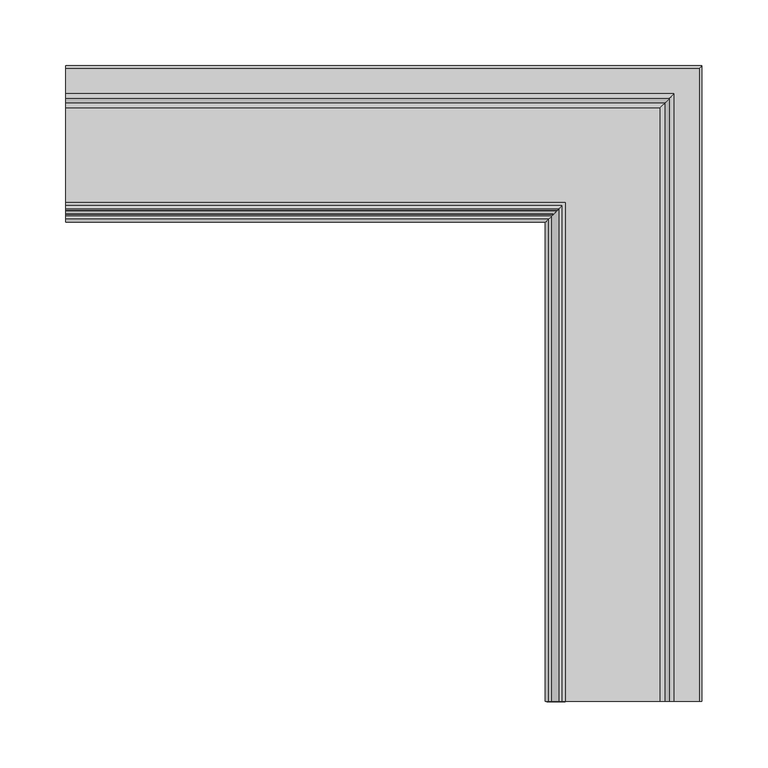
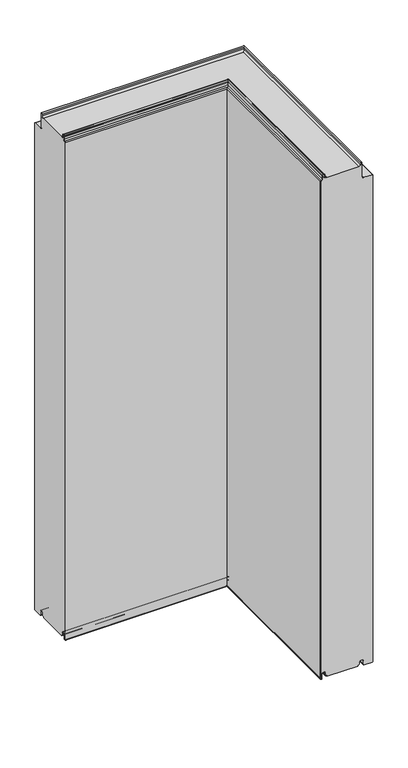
"""IFC4 building model written with IfcOpenShell, lengths in millimetres: plate geometry, Угловой модуль Fronttop : Угловой модуль Fronttop 120/1190."""

from ifc_helpers import new_model, si_unit, frame, origin, place, context, project, spatial, polyline, circle_curve, ellipse_curve, source, transform, mapped, element, save
from ifc_brep_helpers import plane_surface, cylinder_surface, revolved_surface, advanced_brep


def plate_f2ca9579(model_context):
    return source(origin(), model_context, "Body", "AdvancedBrep", [
        advanced_brep(
        [(-234.5, 15.0, 3.0), (-234.5, 13.0, 3.0), (-234.5, 12.0, 4.0), (-234.5, 12.0, 8.0), (-234.5, 3.0, 8.0), (-234.5, 3.0, -0.5), (-234.5, 1.0, -0.5), (-234.5, 1.0, 1185.0278643), (-234.5, 2.1111111, 1186.0216723), (-234.5, 6.0, 1189.5), (-234.5, 6.0, 1198.0), (-234.5, 9.0, 1198.0), (-234.5, 9.0, 1194.0), (-234.5, 13.0, 1190.0), (-234.5, 87.0, 1190.0), (-234.5, 91.0, 1194.0), (-234.5, 91.0, 1198.0), (-234.5, 94.0, 1198.0), (-234.5, 94.0, 1165.0), (-234.5, 98.0, 1161.0), (-234.5, 117.0, 1161.0), (-234.5, 119.0, 1159.0), (-234.5, 119.0, 0.0), (-234.5, 117.0, -2.0), (-234.5, 99.0, -2.0), (-234.5, 97.0, 0.0), (-234.5, 97.0, 8.0), (-234.5, 88.0, 8.0), (-234.5, 88.0, 4.0), (-234.5, 87.0, 3.0), (-234.5, 85.0, 3.0), (-234.5, 85.0, 0.0), (-234.5, 15.0, 0.0), (145.0, 15.0, 0.0), (145.0, 15.0, 3.0), (215.0, 85.0, 0.0), (215.0, -364.5, 0.0), (145.0, -364.5, 0.0), (215.0, 85.0, 3.0), (217.0, 87.0, 3.0), (217.0, -364.5, 3.0), (215.0, -364.5, 3.0), (218.0, 88.0, 4.0), (218.0, 88.0, 8.0), (227.0, 97.0, 8.0), (227.0, 97.0, 0.0), (229.0, 99.0, -2.0), (247.0, 117.0, -2.0), (247.0, -364.5, -2.0), (229.0, -364.5, -2.0), (249.0, 119.0, 0.0), (249.0, 119.0, 1159.0), (247.0, 117.0, 1161.0), (228.0, 98.0, 1161.0), (228.0, -364.5, 1161.0), (247.0, -364.5, 1161.0), (224.0, 94.0, 1165.0), (224.0, 94.0, 1198.0), (221.0, 91.0, 1198.0), (221.0, 91.0, 1194.0), (217.0, 87.0, 1190.0), (143.0, 13.0, 1190.0), (143.0, -364.5, 1190.0), (217.0, -364.5, 1190.0), (139.0, 9.0, 1194.0), (139.0, 9.0, 1198.0), (136.0, 6.0, 1198.0), (136.0, 6.0, 1189.5), (132.1111111, 2.1111111, 1186.021672), (131.0, 1.0, 1185.0278643), (131.0, 1.0, -0.5), (133.0, 3.0, -0.5), (133.0, 3.0, 8.0), (142.0, 12.0, 8.0), (142.0, 12.0, 4.0), (143.0, 13.0, 3.0), (145.0, -364.5, 3.0), (143.0, -364.5, 3.0), (218.0, -364.5, 4.0), (218.0, -364.5, 8.0), (227.0, -364.5, 8.0), (227.0, -364.5, 0.0), (249.0, -364.5, 0.0), (249.0, -364.5, 1159.0), (224.0, -364.5, 1165.0), (224.0, -364.5, 1198.0), (221.0, -364.5, 1198.0), (221.0, -364.5, 1194.0), (139.0, -364.5, 1194.0), (139.0, -364.5, 1198.0), (136.0, -364.5, 1198.0), (136.0, -364.5, 1189.5), (132.1111111, -364.5, 1186.021672), (131.0, -364.5, 1185.0278643), (131.0, -364.5, -0.5), (133.0, -364.5, -0.5), (133.0, -364.5, 8.0), (142.0, -364.5, 8.0), (142.0, -364.5, 4.0)],
        [
            (0, 1),
            (1, 2, circle_curve(frame((-234.5, 13.0, 4.0), z_axis=(-1.0, 0.0, 0.0), x_axis=(0.0, -1.0, 0.0)), 1.0)),
            (2, 3),
            (3, 4, circle_curve(frame((-234.5, 7.5, 8.0), z_axis=(1.0, 0.0, 0.0), x_axis=(0.0, -1.0, 0.0)), 4.5)),
            (4, 5),
            (5, 6, circle_curve(frame((-234.5, 2.0, -0.5), z_axis=(-1.0, 0.0, 0.0), x_axis=(0.0, -1.0, 0.0)), 1.0)),
            (6, 7),
            (7, 8, circle_curve(frame((-234.5, 2.0, 1185.0278643), z_axis=(-1.0, 0.0, 0.0), x_axis=(0.0, -1.0, 0.0)), 1.0)),
            (8, 9, circle_curve(frame((-234.5, 2.5, 1189.5), z_axis=(1.0, 0.0, 0.0), x_axis=(0.0, -1.0, 0.0)), 3.5)),
            (9, 10),
            (10, 11, circle_curve(frame((-234.5, 7.5, 1198.0), z_axis=(-1.0, 0.0, 0.0), x_axis=(0.0, -1.0, 0.0)), 1.5)),
            (11, 12),
            (12, 13, circle_curve(frame((-234.5, 13.0, 1194.0), z_axis=(1.0, 0.0, 0.0), x_axis=(0.0, -1.0, 0.0)), 4.0)),
            (13, 14),
            (14, 15, circle_curve(frame((-234.5, 87.0, 1194.0), z_axis=(1.0, 0.0, 0.0), x_axis=(0.0, -1.0, 0.0)), 4.0)),
            (15, 16),
            (16, 17, circle_curve(frame((-234.5, 92.5, 1198.0), z_axis=(-1.0, 0.0, 0.0), x_axis=(0.0, -1.0, 0.0)), 1.5)),
            (17, 18),
            (18, 19, circle_curve(frame((-234.5, 98.0, 1165.0), z_axis=(1.0, 0.0, 0.0), x_axis=(0.0, -1.0, 0.0)), 4.0)),
            (19, 20),
            (20, 21, circle_curve(frame((-234.5, 117.0, 1159.0), z_axis=(-1.0, 0.0, 0.0), x_axis=(0.0, -1.0, 0.0)), 2.0)),
            (21, 22),
            (22, 23, circle_curve(frame((-234.5, 117.0, 0.0), z_axis=(-1.0, 0.0, 0.0), x_axis=(0.0, -1.0, 0.0)), 2.0)),
            (23, 24),
            (24, 25, circle_curve(frame((-234.5, 99.0, 0.0), z_axis=(-1.0, 0.0, 0.0), x_axis=(0.0, -1.0, 0.0)), 2.0)),
            (25, 26),
            (26, 27, circle_curve(frame((-234.5, 92.5, 8.0), z_axis=(1.0, 0.0, 0.0), x_axis=(0.0, -1.0, 0.0)), 4.5)),
            (27, 28),
            (28, 29, circle_curve(frame((-234.5, 87.0, 4.0), z_axis=(-1.0, 0.0, 0.0), x_axis=(0.0, -1.0, 0.0)), 1.0)),
            (29, 30),
            (30, 31),
            (31, 32),
            (32, 0),
            (32, 33),
            (33, 34),
            (34, 0),
            (31, 35),
            (35, 36),
            (36, 37),
            (37, 33),
            (30, 38),
            (38, 35),
            (29, 39),
            (39, 40),
            (40, 41),
            (41, 38),
            (28, 42),
            (42, 39, ellipse_curve(frame((217.0, 87.0, 4.0), z_axis=(-0.7071067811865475, 0.7071067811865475, 0.0), x_axis=(-0.7071067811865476, -0.7071067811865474, 0.0)), 1.4142136, 1.0)),
            (27, 43),
            (43, 42),
            (26, 44),
            (44, 43, ellipse_curve(frame((222.5, 92.5, 8.0), z_axis=(0.7071067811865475, -0.7071067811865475, 0.0), x_axis=(0.7071067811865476, 0.7071067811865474, 0.0)), 6.363961, 4.5)),
            (25, 45),
            (45, 44),
            (24, 46),
            (46, 45, ellipse_curve(frame((229.0, 99.0, 0.0), z_axis=(-0.7071067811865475, 0.7071067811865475, 0.0), x_axis=(-0.7071067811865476, -0.7071067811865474, 0.0)), 2.8284271, 2.0)),
            (23, 47),
            (47, 48),
            (48, 49),
            (49, 46),
            (22, 50),
            (50, 47, ellipse_curve(frame((247.0, 117.0, 0.0), z_axis=(-0.7071067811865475, 0.7071067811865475, 0.0), x_axis=(-0.7071067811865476, -0.7071067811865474, 0.0)), 2.8284271, 2.0)),
            (21, 51),
            (51, 50),
            (20, 52),
            (52, 51, ellipse_curve(frame((247.0, 117.0, 1159.0), z_axis=(-0.7071067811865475, 0.7071067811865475, 0.0), x_axis=(-0.7071067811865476, -0.7071067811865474, 0.0)), 2.8284271, 2.0)),
            (19, 53),
            (53, 54),
            (54, 55),
            (55, 52),
            (18, 56),
            (56, 53, ellipse_curve(frame((228.0, 98.0, 1165.0), z_axis=(0.7071067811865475, -0.7071067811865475, 0.0), x_axis=(0.7071067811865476, 0.7071067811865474, 0.0)), 5.6568542, 4.0)),
            (17, 57),
            (57, 56),
            (16, 58),
            (58, 57, ellipse_curve(frame((222.5, 92.5, 1198.0), z_axis=(-0.7071067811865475, 0.7071067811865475, 0.0), x_axis=(-0.7071067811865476, -0.7071067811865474, 0.0)), 2.1213203, 1.5)),
            (15, 59),
            (59, 58),
            (14, 60),
            (60, 59, ellipse_curve(frame((217.0, 87.0, 1194.0), z_axis=(0.7071067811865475, -0.7071067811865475, 0.0), x_axis=(0.7071067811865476, 0.7071067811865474, 0.0)), 5.6568542, 4.0)),
            (13, 61),
            (61, 62),
            (62, 63),
            (63, 60),
            (12, 64),
            (64, 61, ellipse_curve(frame((143.0, 13.0, 1194.0), z_axis=(0.7071067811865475, -0.7071067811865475, 0.0), x_axis=(0.7071067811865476, 0.7071067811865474, 0.0)), 5.6568542, 4.0)),
            (11, 65),
            (65, 64),
            (10, 66),
            (66, 65, ellipse_curve(frame((137.5, 7.5, 1198.0), z_axis=(-0.7071067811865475, 0.7071067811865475, 0.0), x_axis=(-0.7071067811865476, -0.7071067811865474, 0.0)), 2.1213204, 1.5)),
            (9, 67),
            (67, 66),
            (8, 68),
            (68, 67, ellipse_curve(frame((132.5, 2.5, 1189.5), z_axis=(0.7071067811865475, -0.7071067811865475, 0.0), x_axis=(0.7071067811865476, 0.7071067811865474, 0.0)), 4.9497475, 3.5)),
            (7, 69),
            (69, 68, ellipse_curve(frame((132.0, 2.0, 1185.0278643), z_axis=(-0.7071067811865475, 0.7071067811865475, 0.0), x_axis=(-0.7071067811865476, -0.7071067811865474, 0.0)), 1.4142136, 1.0)),
            (6, 70),
            (70, 69),
            (5, 71),
            (71, 70, ellipse_curve(frame((132.0, 2.0, -0.5), z_axis=(-0.7071067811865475, 0.7071067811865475, 0.0), x_axis=(-0.7071067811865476, -0.7071067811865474, 0.0)), 1.4142136, 1.0)),
            (4, 72),
            (72, 71),
            (3, 73),
            (73, 72, ellipse_curve(frame((137.5, 7.5, 8.0), z_axis=(0.7071067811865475, -0.7071067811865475, 0.0), x_axis=(0.7071067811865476, 0.7071067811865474, 0.0)), 6.363961, 4.5)),
            (2, 74),
            (74, 73),
            (1, 75),
            (75, 74, ellipse_curve(frame((143.0, 13.0, 4.0), z_axis=(-0.7071067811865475, 0.7071067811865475, 0.0), x_axis=(-0.7071067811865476, -0.7071067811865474, 0.0)), 1.4142136, 1.0)),
            (34, 76),
            (76, 77),
            (77, 75),
            (76, 37),
            (36, 41),
            (40, 78, circle_curve(frame((217.0, -364.5, 4.0), z_axis=(0.0, -1.0, 0.0), x_axis=(-1.0, 0.0, 0.0)), 1.0)),
            (78, 79),
            (79, 80, circle_curve(frame((222.5, -364.5, 8.0), z_axis=(0.0, 1.0, 0.0), x_axis=(-1.0, 0.0, 0.0)), 4.5)),
            (80, 81),
            (81, 49, circle_curve(frame((229.0, -364.5, 0.0), z_axis=(0.0, -1.0, 0.0), x_axis=(-1.0, 0.0, 0.0)), 2.0)),
            (48, 82, circle_curve(frame((247.0, -364.5, 0.0), z_axis=(0.0, -1.0, 0.0), x_axis=(-1.0, 0.0, 0.0)), 2.0)),
            (82, 83),
            (83, 55, circle_curve(frame((247.0, -364.5, 1159.0), z_axis=(0.0, -1.0, 0.0), x_axis=(-1.0, 0.0, 0.0)), 2.0)),
            (54, 84, circle_curve(frame((228.0, -364.5, 1165.0), z_axis=(0.0, 1.0, 0.0), x_axis=(-1.0, 0.0, 0.0)), 4.0)),
            (84, 85),
            (85, 86, circle_curve(frame((222.5, -364.5, 1198.0), z_axis=(0.0, -1.0, 0.0), x_axis=(-1.0, 0.0, 0.0)), 1.5)),
            (86, 87),
            (87, 63, circle_curve(frame((217.0, -364.5, 1194.0), z_axis=(0.0, 1.0, 0.0), x_axis=(-1.0, 0.0, 0.0)), 4.0)),
            (62, 88, circle_curve(frame((143.0, -364.5, 1194.0), z_axis=(0.0, 1.0, 0.0), x_axis=(-1.0, 0.0, 0.0)), 4.0)),
            (88, 89),
            (89, 90, circle_curve(frame((137.5, -364.5, 1198.0), z_axis=(0.0, -1.0, 0.0), x_axis=(-1.0, 0.0, 0.0)), 1.5)),
            (90, 91),
            (91, 92, circle_curve(frame((132.5, -364.5, 1189.5), z_axis=(0.0, 1.0, 0.0), x_axis=(-1.0, 0.0, 0.0)), 3.5)),
            (92, 93, circle_curve(frame((132.0, -364.5, 1185.0278643), z_axis=(0.0, -1.0, 0.0), x_axis=(-1.0, 0.0, 0.0)), 1.0)),
            (93, 94),
            (94, 95, circle_curve(frame((132.0, -364.5, -0.5), z_axis=(0.0, -1.0, 0.0), x_axis=(-1.0, 0.0, 0.0)), 1.0)),
            (95, 96),
            (96, 97, circle_curve(frame((137.5, -364.5, 8.0), z_axis=(0.0, 1.0, 0.0), x_axis=(-1.0, 0.0, 0.0)), 4.5)),
            (97, 98),
            (98, 77, circle_curve(frame((143.0, -364.5, 4.0), z_axis=(0.0, -1.0, 0.0), x_axis=(-1.0, 0.0, 0.0)), 1.0)),
            (42, 78),
            (43, 79),
            (44, 80),
            (45, 81),
            (50, 82),
            (51, 83),
            (56, 84),
            (57, 85),
            (58, 86),
            (59, 87),
            (64, 88),
            (65, 89),
            (66, 90),
            (67, 91),
            (68, 92),
            (69, 93),
            (70, 94),
            (71, 95),
            (72, 96),
            (73, 97),
            (74, 98),
        ],
        [
            plane_surface(frame((-234.5, 0.0, 0.0), z_axis=(-1.0, 0.0, 0.0), x_axis=(0.0, 0.0, 1.0))),
            plane_surface(frame((-234.5, 15.0, 0.0), z_axis=(0.0, -1.0, 0.0), x_axis=(1.0, 0.0, 0.0))),
            plane_surface(frame((-234.5, 85.0, 0.0), z_axis=(0.0, 0.0, -1.0), x_axis=(1.0, 0.0, 0.0))),
            plane_surface(frame((-234.5, 85.0, 3.0), z_axis=(0.0, 1.0, 0.0), x_axis=(1.0, 0.0, 0.0))),
            plane_surface(frame((-234.5, 87.0, 3.0), z_axis=(0.0, 0.0, -1.0), x_axis=(1.0, 0.0, 0.0))),
            cylinder_surface(frame((-234.5, 87.0, 4.0), z_axis=(-1.0, 0.0, 0.0), x_axis=(0.0, -1.0, 0.0)), 1.0),
            plane_surface(frame((-234.5, 88.0, 8.0), z_axis=(0.0, 1.0, 0.0), x_axis=(1.0, 0.0, 0.0))),
            revolved_surface(polyline([(227.0, 88.0, 8.0), (-234.5, 88.0, 8.0)]), (-234.5, 92.5, 8.0), (1.0, 0.0, 0.0)),
            plane_surface(frame((-234.5, 97.0, 0.0), z_axis=(0.0, -1.0, 0.0), x_axis=(1.0, 0.0, 0.0))),
            cylinder_surface(frame((-234.5, 99.0, 0.0), z_axis=(-1.0, 0.0, 0.0), x_axis=(0.0, -1.0, 0.0)), 2.0),
            plane_surface(frame((-234.5, 117.0, -2.0), z_axis=(0.0, 0.0, -1.0), x_axis=(1.0, 0.0, 0.0))),
            cylinder_surface(frame((-234.5, 117.0, 0.0), z_axis=(-1.0, 0.0, 0.0), x_axis=(0.0, -1.0, 0.0)), 2.0),
            plane_surface(frame((-234.5, 119.0, 1159.0), z_axis=(0.0, 1.0, 0.0), x_axis=(1.0, 0.0, 0.0))),
            cylinder_surface(frame((-234.5, 117.0, 1159.0), z_axis=(-1.0, 0.0, 0.0), x_axis=(0.0, -1.0, 0.0)), 2.0),
            plane_surface(frame((-234.5, 98.0, 1161.0), z_axis=(0.0, 0.0, 1.0), x_axis=(1.0, 0.0, 0.0))),
            revolved_surface(polyline([(231.9999999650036, 94.0, 1165.0), (-234.5, 94.0, 1165.0)]), (-234.5, 98.0, 1165.0), (1.0, 0.0, 0.0)),
            plane_surface(frame((-234.5, 94.0, 1198.0), z_axis=(0.0, 1.0, 0.0), x_axis=(1.0, 0.0, 0.0))),
            cylinder_surface(frame((-234.5, 92.5, 1198.0), z_axis=(-1.0, 0.0, 0.0), x_axis=(0.0, -1.0, 0.0)), 1.5),
            plane_surface(frame((-234.5, 91.0, 1194.0), z_axis=(0.0, -1.0, 0.0), x_axis=(1.0, 0.0, 0.0))),
            revolved_surface(polyline([(221.0, 83.0, 1194.0), (-234.5, 83.0, 1194.0)]), (-234.5, 87.0, 1194.0), (1.0, 0.0, 0.0)),
            plane_surface(frame((-234.5, 13.0, 1190.0), z_axis=(0.0, 0.0, 1.0), x_axis=(1.0, 0.0, 0.0))),
            revolved_surface(polyline([(146.9999999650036, 9.0, 1194.0), (-234.5, 9.0, 1194.0)]), (-234.5, 13.0, 1194.0), (1.0, 0.0, 0.0)),
            plane_surface(frame((-234.5, 9.0, 1198.0), z_axis=(0.0, 1.0, 0.0), x_axis=(1.0, 0.0, 0.0))),
            cylinder_surface(frame((-234.5, 7.5, 1198.0), z_axis=(-1.0, 0.0, 0.0), x_axis=(0.0, -1.0, 0.0)), 1.5),
            plane_surface(frame((-234.5, 6.0, 1189.5), z_axis=(0.0, -1.0, 0.0), x_axis=(1.0, 0.0, 0.0))),
            revolved_surface(polyline([(136.00000002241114, -1.0, 1189.5), (-234.5, -1.0, 1189.5)]), (-234.5, 2.5, 1189.5), (1.0, 0.0, 0.0)),
            cylinder_surface(frame((-234.5, 2.0, 1185.0278643), z_axis=(-1.0, 0.0, 0.0), x_axis=(0.0, -1.0, 0.0)), 1.0),
            plane_surface(frame((-234.5, 1.0, -0.5), z_axis=(0.0, -1.0, 0.0), x_axis=(1.0, 0.0, 0.0))),
            cylinder_surface(frame((-234.5, 2.0, -0.5), z_axis=(-1.0, 0.0, 0.0), x_axis=(0.0, -1.0, 0.0)), 1.0),
            plane_surface(frame((-234.5, 3.0, 8.0), z_axis=(0.0, 1.0, 0.0), x_axis=(1.0, 0.0, 0.0))),
            revolved_surface(polyline([(142.0, 3.0, 8.0), (-234.5, 3.0, 8.0)]), (-234.5, 7.5, 8.0), (1.0, 0.0, 0.0)),
            plane_surface(frame((-234.5, 12.0, 4.0), z_axis=(0.0, -1.0, 0.0), x_axis=(1.0, 0.0, 0.0))),
            cylinder_surface(frame((-234.5, 13.0, 4.0), z_axis=(-1.0, 0.0, 0.0), x_axis=(0.0, -1.0, 0.0)), 1.0),
            plane_surface(frame((-234.5, 15.0, 3.0), z_axis=(0.0, 0.0, -1.0), x_axis=(1.0, 0.0, 0.0))),
            plane_surface(frame((130.0, -364.5, 0.0), z_axis=(0.0, -1.0, 0.0), x_axis=(0.0, 0.0, 1.0))),
            plane_surface(frame((145.0, 15.0, 0.0), z_axis=(-1.0, 0.0, 0.0), x_axis=(0.0, -1.0, 0.0))),
            plane_surface(frame((215.0, 85.0, 3.0), z_axis=(1.0, 0.0, 0.0), x_axis=(0.0, -1.0, 0.0))),
            cylinder_surface(frame((217.0, 0.0, 4.0), z_axis=(0.0, 1.0, 0.0), x_axis=(-1.0, 0.0, 0.0)), 1.0),
            plane_surface(frame((218.0, 88.0, 8.0), z_axis=(1.0, 0.0, 0.0), x_axis=(0.0, -1.0, 0.0))),
            revolved_surface(polyline([(218.0, -364.5, 8.0), (218.0, 97.0, 8.0)]), (222.5, 0.0, 8.0), (0.0, -1.0, 0.0)),
            plane_surface(frame((227.0, 97.0, 0.0), z_axis=(-1.0, 0.0, 0.0), x_axis=(0.0, -1.0, 0.0))),
            cylinder_surface(frame((229.0, 0.0, 0.0), z_axis=(0.0, 1.0, 0.0), x_axis=(-1.0, 0.0, 0.0)), 2.0),
            cylinder_surface(frame((247.0, 0.0, 0.0), z_axis=(0.0, 1.0, 0.0), x_axis=(-1.0, 0.0, 0.0)), 2.0),
            plane_surface(frame((249.0, 119.0, 1159.0), z_axis=(1.0, 0.0, 0.0), x_axis=(0.0, -1.0, 0.0))),
            cylinder_surface(frame((247.0, 0.0, 1159.0), z_axis=(0.0, 1.0, 0.0), x_axis=(-1.0, 0.0, 0.0)), 2.0),
            revolved_surface(polyline([(224.0, -364.5, 1165.0), (224.0, 101.9999999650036, 1165.0)]), (228.0, 0.0, 1165.0), (0.0, -1.0, 0.0)),
            plane_surface(frame((224.0, 94.0, 1198.0), z_axis=(1.0, 0.0, 0.0), x_axis=(0.0, -1.0, 0.0))),
            cylinder_surface(frame((222.5, 0.0, 1198.0), z_axis=(0.0, 1.0, 0.0), x_axis=(-1.0, 0.0, 0.0)), 1.5),
            plane_surface(frame((221.0, 91.0, 1194.0), z_axis=(-1.0, 0.0, 0.0), x_axis=(0.0, -1.0, 0.0))),
            revolved_surface(polyline([(213.0, -364.5, 1194.0), (213.0, 91.0, 1194.0)]), (217.0, 0.0, 1194.0), (0.0, -1.0, 0.0)),
            revolved_surface(polyline([(139.0, -364.5, 1194.0), (139.0, 16.999999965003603, 1194.0)]), (143.0, 0.0, 1194.0), (0.0, -1.0, 0.0)),
            plane_surface(frame((139.0, 9.0, 1198.0), z_axis=(1.0, 0.0, 0.0), x_axis=(0.0, -1.0, 0.0))),
            cylinder_surface(frame((137.5, 0.0, 1198.0), z_axis=(0.0, 1.0, 0.0), x_axis=(-1.0, 0.0, 0.0)), 1.5),
            plane_surface(frame((136.0, 6.0, 1189.5), z_axis=(-1.0, 0.0, 0.0), x_axis=(0.0, -1.0, 0.0))),
            revolved_surface(polyline([(129.0, -364.5, 1189.5), (129.0, 6.000000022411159, 1189.5)]), (132.5, 0.0, 1189.5), (0.0, -1.0, 0.0)),
            cylinder_surface(frame((132.0, 0.0, 1185.0278643), z_axis=(0.0, 1.0, 0.0), x_axis=(-1.0, 0.0, 0.0)), 1.0),
            plane_surface(frame((131.0, 1.0, -0.5), z_axis=(-1.0, 0.0, 0.0), x_axis=(0.0, -1.0, 0.0))),
            cylinder_surface(frame((132.0, 0.0, -0.5), z_axis=(0.0, 1.0, 0.0), x_axis=(-1.0, 0.0, 0.0)), 1.0),
            plane_surface(frame((133.0, 3.0, 8.0), z_axis=(1.0, 0.0, 0.0), x_axis=(0.0, -1.0, 0.0))),
            revolved_surface(polyline([(133.0, -364.5, 8.0), (133.0, 12.0, 8.0)]), (137.5, 0.0, 8.0), (0.0, -1.0, 0.0)),
            plane_surface(frame((142.0, 12.0, 4.0), z_axis=(-1.0, 0.0, 0.0), x_axis=(0.0, -1.0, 0.0))),
            cylinder_surface(frame((143.0, 0.0, 4.0), z_axis=(0.0, 1.0, 0.0), x_axis=(-1.0, 0.0, 0.0)), 1.0),
        ],
        [
            (0, [[1, 2, 3, 4, 5, 6, 7, 8, 9, 10, 11, 12, 13, 14, 15, 16, 17, 18, 19, 20, 21, 22, 23, 24, 25, 26, 27, 28, 29, 30, 31, 32, 33]]),
            (1, [[-33, 34, 35, 36]]),
            (2, [[-32, 37, 38, 39, 40, -34]]),
            (3, [[-31, 41, 42, -37]]),
            (4, [[-30, 43, 44, 45, 46, -41]]),
            (5, [[-29, 47, 48, -43]]),
            (6, [[-28, 49, 50, -47]]),
            (7, [[-27, 51, 52, -49]]),
            (8, [[-26, 53, 54, -51]]),
            (9, [[-25, 55, 56, -53]]),
            (10, [[-24, 57, 58, 59, 60, -55]]),
            (11, [[-23, 61, 62, -57]]),
            (12, [[-22, 63, 64, -61]]),
            (13, [[-21, 65, 66, -63]]),
            (14, [[-20, 67, 68, 69, 70, -65]]),
            (15, [[-19, 71, 72, -67]]),
            (16, [[-18, 73, 74, -71]]),
            (17, [[-17, 75, 76, -73]]),
            (18, [[-16, 77, 78, -75]]),
            (19, [[-15, 79, 80, -77]]),
            (20, [[-14, 81, 82, 83, 84, -79]]),
            (21, [[-13, 85, 86, -81]]),
            (22, [[-12, 87, 88, -85]]),
            (23, [[-11, 89, 90, -87]]),
            (24, [[-10, 91, 92, -89]]),
            (25, [[-9, 93, 94, -91]]),
            (26, [[-8, 95, 96, -93]]),
            (27, [[-7, 97, 98, -95]]),
            (28, [[-6, 99, 100, -97]]),
            (29, [[-5, 101, 102, -99]]),
            (30, [[-4, 103, 104, -101]]),
            (31, [[-3, 105, 106, -103]]),
            (32, [[-2, 107, 108, -105]]),
            (33, [[-1, -36, 109, 110, 111, -107]]),
            (34, [[112, -39, 113, -45, 114, 115, 116, 117, 118, -59, 119, 120, 121, -69, 122, 123, 124, 125, 126, -83, 127, 128, 129, 130, 131, 132, 133, 134, 135, 136, 137, 138, -110]]),
            (35, [[-35, -40, -112, -109]]),
            (36, [[-42, -46, -113, -38]]),
            (37, [[-48, 139, -114, -44]]),
            (38, [[-50, 140, -115, -139]]),
            (39, [[-52, 141, -116, -140]]),
            (40, [[-54, 142, -117, -141]]),
            (41, [[-56, -60, -118, -142]]),
            (42, [[-62, 143, -119, -58]]),
            (43, [[-64, 144, -120, -143]]),
            (44, [[-66, -70, -121, -144]]),
            (45, [[-72, 145, -122, -68]]),
            (46, [[-74, 146, -123, -145]]),
            (47, [[-76, 147, -124, -146]]),
            (48, [[-78, 148, -125, -147]]),
            (49, [[-80, -84, -126, -148]]),
            (50, [[-86, 149, -127, -82]]),
            (51, [[-88, 150, -128, -149]]),
            (52, [[-90, 151, -129, -150]]),
            (53, [[-92, 152, -130, -151]]),
            (54, [[-94, 153, -131, -152]]),
            (55, [[-96, 154, -132, -153]]),
            (56, [[-98, 155, -133, -154]]),
            (57, [[-100, 156, -134, -155]]),
            (58, [[-102, 157, -135, -156]]),
            (59, [[-104, 158, -136, -157]]),
            (60, [[-106, 159, -137, -158]]),
            (61, [[-108, -111, -138, -159]]),
        ],
    ),
        advanced_brep(
        [(-234.5, 13.0, 1191.0), (-234.5, 15.0, 1191.0), (-234.5, 15.0, 1190.0), (-234.5, 13.0, 1190.0), (-234.5, 9.0, 1194.0), (-234.5, 9.0, 1198.0), (-234.5, 6.0, 1198.0), (-234.5, 6.0, 1189.5), (-234.5, 2.1134897, 1186.0214069), (-234.5, 1.0, 1185.0), (-234.5, 1.0, -0.5), (-234.5, 3.0, -0.5), (-234.5, 3.0, 8.0), (-234.5, 12.0, 8.0), (-234.5, 12.0, 4.0), (-234.5, 13.0, 3.0), (-234.5, 15.0, 3.0), (-234.5, 15.0, 2.0), (-234.5, 13.0, 2.0), (-234.5, 11.0, 4.0), (-234.5, 11.0, 8.0), (-234.5, 4.0, 8.0), (-234.5, 4.0, -0.5), (-234.5, 0.0, -0.5), (-234.5, 0.0, 1185.0), (-234.5, 2.220863, 1186.9877675), (-234.5, 5.0, 1189.5), (-234.5, 5.0, 1198.0), (-234.5, 10.0, 1198.0), (-234.5, 10.0, 1194.0), (143.0, 13.0, 1191.0), (143.0, -364.5, 1191.0), (145.0, -364.5, 1191.0), (145.0, 15.0, 1191.0), (145.0, 15.0, 1190.0), (145.0, -364.5, 1190.0), (143.0, -364.5, 1190.0), (143.0, 13.0, 1190.0), (139.0, 9.0, 1194.0), (139.0, 9.0, 1198.0), (136.0, 6.0, 1198.0), (136.0, 6.0, 1189.5), (132.1134897, 2.1134897, 1186.0214069), (131.0, 1.0, 1185.0), (131.0, 1.0, -0.5), (133.0, 3.0, -0.5), (133.0, 3.0, 8.0), (142.0, 12.0, 8.0), (142.0, 12.0, 4.0), (143.0, 13.0, 3.0), (143.0, -364.5, 3.0), (145.0, -364.5, 3.0), (145.0, 15.0, 3.0), (145.0, 15.0, 2.0), (145.0, -364.5, 2.0), (143.0, -364.5, 2.0), (143.0, 13.0, 2.0), (141.0, 11.0, 4.0), (141.0, 11.0, 8.0), (134.0, 4.0, 8.0), (134.0, 4.0, -0.5), (130.0, 0.0, -0.5), (130.0, 0.0, 1185.0), (132.220863, 2.220863, 1186.9877675), (135.0, 5.0, 1189.5), (135.0, 5.0, 1198.0), (140.0, 10.0, 1198.0), (140.0, 10.0, 1194.0), (140.0, -364.5, 1194.0), (140.0, -364.5, 1198.0), (135.0, -364.5, 1198.0), (135.0, -364.5, 1189.5), (132.2239212, -364.5, 1187.0152907), (130.0, -364.5, 1185.0), (130.0, -364.5, -0.5), (134.0, -364.5, -0.5), (134.0, -364.5, 8.0), (141.0, -364.5, 8.0), (141.0, -364.5, 4.0), (142.0, -364.5, 4.0), (142.0, -364.5, 8.0), (133.0, -364.5, 8.0), (133.0, -364.5, -0.5), (131.0, -364.5, -0.5), (131.0, -364.5, 1185.0), (132.1104315, -364.5, 1185.9938837), (136.0, -364.5, 1189.5), (136.0, -364.5, 1198.0), (139.0, -364.5, 1198.0), (139.0, -364.5, 1194.0)],
        [
            (0, 1),
            (1, 2),
            (2, 3),
            (3, 4, circle_curve(frame((-234.5, 13.0, 1194.0), z_axis=(-1.0, 0.0, 0.0), x_axis=(0.0, -1.0, 0.0)), 4.0)),
            (4, 5),
            (5, 6, circle_curve(frame((-234.5, 7.5, 1198.0), z_axis=(1.0, 0.0, 0.0), x_axis=(0.0, -1.0, 0.0)), 1.5)),
            (6, 7),
            (7, 8, circle_curve(frame((-234.5, 2.5, 1189.5), z_axis=(-1.0, 0.0, 0.0), x_axis=(0.0, -1.0, 0.0)), 3.5)),
            (8, 9, circle_curve(frame((-234.5, 2.0, 1185.0), z_axis=(1.0, 0.0, 0.0), x_axis=(0.0, -1.0, 0.0)), 1.0)),
            (9, 10),
            (10, 11, circle_curve(frame((-234.5, 2.0, -0.5), z_axis=(1.0, 0.0, 0.0), x_axis=(0.0, -1.0, 0.0)), 1.0)),
            (11, 12),
            (12, 13, circle_curve(frame((-234.5, 7.5, 8.0), z_axis=(-1.0, 0.0, 0.0), x_axis=(0.0, -1.0, 0.0)), 4.5)),
            (13, 14),
            (14, 15, circle_curve(frame((-234.5, 13.0, 4.0), z_axis=(1.0, 0.0, 0.0), x_axis=(0.0, -1.0, 0.0)), 1.0)),
            (15, 16),
            (16, 17),
            (17, 18),
            (18, 19, circle_curve(frame((-234.5, 13.0, 4.0), z_axis=(-1.0, 0.0, 0.0), x_axis=(0.0, -1.0, 0.0)), 2.0)),
            (19, 20),
            (20, 21, circle_curve(frame((-234.5, 7.5, 8.0), z_axis=(1.0, 0.0, 0.0), x_axis=(0.0, -1.0, 0.0)), 3.5)),
            (21, 22),
            (22, 23, circle_curve(frame((-234.5, 2.0, -0.5), z_axis=(-1.0, 0.0, 0.0), x_axis=(0.0, -1.0, 0.0)), 2.0)),
            (23, 24),
            (24, 25, circle_curve(frame((-234.5, 2.0, 1185.0), z_axis=(-1.0, 0.0, 0.0), x_axis=(0.0, -1.0, 0.0)), 2.0)),
            (25, 26, circle_curve(frame((-234.5, 2.5, 1189.5), z_axis=(1.0, 0.0, 0.0), x_axis=(0.0, -1.0, 0.0)), 2.5)),
            (26, 27),
            (27, 28, circle_curve(frame((-234.5, 7.5, 1198.0), z_axis=(-1.0, 0.0, 0.0), x_axis=(0.0, -1.0, 0.0)), 2.5)),
            (28, 29),
            (29, 0, circle_curve(frame((-234.5, 13.0, 1194.0), z_axis=(1.0, 0.0, 0.0), x_axis=(0.0, -1.0, 0.0)), 3.0)),
            (0, 30),
            (30, 31),
            (31, 32),
            (32, 33),
            (33, 1),
            (33, 34),
            (34, 2),
            (34, 35),
            (35, 36),
            (36, 37),
            (37, 3),
            (37, 38, ellipse_curve(frame((143.0, 13.0, 1194.0), z_axis=(-0.7071067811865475, 0.7071067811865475, 0.0), x_axis=(-0.7071067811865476, -0.7071067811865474, 0.0)), 5.6568542, 4.0)),
            (38, 4),
            (38, 39),
            (39, 5),
            (39, 40, ellipse_curve(frame((137.5, 7.5, 1198.0), z_axis=(0.7071067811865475, -0.7071067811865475, 0.0), x_axis=(0.7071067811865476, 0.7071067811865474, 0.0)), 2.1213204, 1.5)),
            (40, 6),
            (40, 41),
            (41, 7),
            (41, 42, ellipse_curve(frame((132.5, 2.5, 1189.5), z_axis=(-0.7071067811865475, 0.7071067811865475, 0.0), x_axis=(-0.7071067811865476, -0.7071067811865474, 0.0)), 4.9497475, 3.5)),
            (42, 8),
            (42, 43, ellipse_curve(frame((132.0, 2.0, 1185.0), z_axis=(0.7071067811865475, -0.7071067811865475, 0.0), x_axis=(0.7071067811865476, 0.7071067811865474, 0.0)), 1.4142136, 1.0)),
            (43, 9),
            (43, 44),
            (44, 10),
            (44, 45, ellipse_curve(frame((132.0, 2.0, -0.5), z_axis=(0.7071067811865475, -0.7071067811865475, 0.0), x_axis=(0.7071067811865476, 0.7071067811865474, 0.0)), 1.4142136, 1.0)),
            (45, 11),
            (45, 46),
            (46, 12),
            (46, 47, ellipse_curve(frame((137.5, 7.5, 8.0), z_axis=(-0.7071067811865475, 0.7071067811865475, 0.0), x_axis=(-0.7071067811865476, -0.7071067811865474, 0.0)), 6.363961, 4.5)),
            (47, 13),
            (47, 48),
            (48, 14),
            (48, 49, ellipse_curve(frame((143.0, 13.0, 4.0), z_axis=(0.7071067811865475, -0.7071067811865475, 0.0), x_axis=(0.7071067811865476, 0.7071067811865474, 0.0)), 1.4142136, 1.0)),
            (49, 15),
            (49, 50),
            (50, 51),
            (51, 52),
            (52, 16),
            (52, 53),
            (53, 17),
            (53, 54),
            (54, 55),
            (55, 56),
            (56, 18),
            (56, 57, ellipse_curve(frame((143.0, 13.0, 4.0), z_axis=(-0.7071067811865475, 0.7071067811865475, 0.0), x_axis=(-0.7071067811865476, -0.7071067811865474, 0.0)), 2.8284271, 2.0)),
            (57, 19),
            (57, 58),
            (58, 20),
            (58, 59, ellipse_curve(frame((137.5, 7.5, 8.0), z_axis=(0.7071067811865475, -0.7071067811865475, 0.0), x_axis=(0.7071067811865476, 0.7071067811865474, 0.0)), 4.9497475, 3.5)),
            (59, 21),
            (59, 60),
            (60, 22),
            (60, 61, ellipse_curve(frame((132.0, 2.0, -0.5), z_axis=(-0.7071067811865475, 0.7071067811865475, 0.0), x_axis=(-0.7071067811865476, -0.7071067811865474, 0.0)), 2.8284271, 2.0)),
            (61, 23),
            (61, 62),
            (62, 24),
            (62, 63, ellipse_curve(frame((132.0, 2.0, 1185.0), z_axis=(-0.7071067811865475, 0.7071067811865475, 0.0), x_axis=(-0.7071067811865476, -0.7071067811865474, 0.0)), 2.8284271, 2.0)),
            (63, 25),
            (63, 64, ellipse_curve(frame((132.5, 2.5, 1189.5), z_axis=(0.7071067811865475, -0.7071067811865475, 0.0), x_axis=(0.7071067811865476, 0.7071067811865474, 0.0)), 3.5355339, 2.5)),
            (64, 26),
            (64, 65),
            (65, 27),
            (65, 66, ellipse_curve(frame((137.5, 7.5, 1198.0), z_axis=(-0.7071067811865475, 0.7071067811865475, 0.0), x_axis=(-0.7071067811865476, -0.7071067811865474, 0.0)), 3.5355339, 2.5)),
            (66, 28),
            (66, 67),
            (67, 29),
            (67, 30, ellipse_curve(frame((143.0, 13.0, 1194.0), z_axis=(0.7071067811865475, -0.7071067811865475, 0.0), x_axis=(0.7071067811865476, 0.7071067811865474, 0.0)), 4.2426407, 3.0)),
            (31, 68, circle_curve(frame((143.0, -364.5, 1194.0), z_axis=(0.0, 1.0, 0.0), x_axis=(-1.0, 0.0, 0.0)), 3.0)),
            (68, 69),
            (69, 70, circle_curve(frame((137.5, -364.5, 1198.0), z_axis=(0.0, -1.0, 0.0), x_axis=(-1.0, 0.0, 0.0)), 2.5)),
            (70, 71),
            (71, 72, circle_curve(frame((132.5, -364.5, 1189.5), z_axis=(0.0, 1.0, 0.0), x_axis=(-1.0, 0.0, 0.0)), 2.5)),
            (72, 73, circle_curve(frame((132.0, -364.5, 1185.0), z_axis=(0.0, -1.0, 0.0), x_axis=(-1.0, 0.0, 0.0)), 2.0)),
            (73, 74),
            (74, 75, circle_curve(frame((132.0, -364.5, -0.5), z_axis=(0.0, -1.0, 0.0), x_axis=(-1.0, 0.0, 0.0)), 2.0)),
            (75, 76),
            (76, 77, circle_curve(frame((137.5, -364.5, 8.0), z_axis=(0.0, 1.0, 0.0), x_axis=(-1.0, 0.0, 0.0)), 3.5)),
            (77, 78),
            (78, 55, circle_curve(frame((143.0, -364.5, 4.0), z_axis=(0.0, -1.0, 0.0), x_axis=(-1.0, 0.0, 0.0)), 2.0)),
            (54, 51),
            (50, 79, circle_curve(frame((143.0, -364.5, 4.0), z_axis=(0.0, 1.0, 0.0), x_axis=(-1.0, 0.0, 0.0)), 1.0)),
            (79, 80),
            (80, 81, circle_curve(frame((137.5, -364.5, 8.0), z_axis=(0.0, -1.0, 0.0), x_axis=(-1.0, 0.0, 0.0)), 4.5)),
            (81, 82),
            (82, 83, circle_curve(frame((132.0, -364.5, -0.5), z_axis=(0.0, 1.0, 0.0), x_axis=(-1.0, 0.0, 0.0)), 1.0)),
            (83, 84),
            (84, 85, circle_curve(frame((132.0, -364.5, 1185.0), z_axis=(0.0, 1.0, 0.0), x_axis=(-1.0, 0.0, 0.0)), 1.0)),
            (85, 86, circle_curve(frame((132.5, -364.5, 1189.5), z_axis=(0.0, -1.0, 0.0), x_axis=(-1.0, 0.0, 0.0)), 3.5)),
            (86, 87),
            (87, 88, circle_curve(frame((137.5, -364.5, 1198.0), z_axis=(0.0, 1.0, 0.0), x_axis=(-1.0, 0.0, 0.0)), 1.5)),
            (88, 89),
            (89, 36, circle_curve(frame((143.0, -364.5, 1194.0), z_axis=(0.0, -1.0, 0.0), x_axis=(-1.0, 0.0, 0.0)), 4.0)),
            (35, 32),
            (89, 38),
            (88, 39),
            (87, 40),
            (86, 41),
            (85, 42),
            (84, 43),
            (83, 44),
            (82, 45),
            (81, 46),
            (80, 47),
            (79, 48),
            (78, 57),
            (77, 58),
            (76, 59),
            (75, 60),
            (74, 61),
            (73, 62),
            (72, 63),
            (71, 64),
            (70, 65),
            (69, 66),
            (68, 67),
        ],
        [
            plane_surface(frame((-234.5, 0.0, 0.0), z_axis=(-1.0, 0.0, 0.0), x_axis=(0.0, 0.0, 1.0))),
            plane_surface(frame((-234.5, 13.0, 1191.0), z_axis=(0.0, 0.0, 1.0), x_axis=(1.0, 0.0, 0.0))),
            plane_surface(frame((-234.5, 15.0, 1191.0), z_axis=(0.0, 1.0, 0.0), x_axis=(1.0, 0.0, 0.0))),
            plane_surface(frame((-234.5, 15.0, 1190.0), z_axis=(0.0, 0.0, -1.0), x_axis=(1.0, 0.0, 0.0))),
            cylinder_surface(frame((-234.5, 13.0, 1194.0), z_axis=(-1.0, 0.0, 0.0), x_axis=(0.0, -1.0, 0.0)), 4.0),
            plane_surface(frame((-234.5, 9.0, 1194.0), z_axis=(0.0, -1.0, 0.0), x_axis=(1.0, 0.0, 0.0))),
            revolved_surface(polyline([(139.00000003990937, 6.0, 1198.0), (-234.5, 6.0, 1198.0)]), (-234.5, 7.5, 1198.0), (1.0, 0.0, 0.0)),
            plane_surface(frame((-234.5, 6.0, 1198.0), z_axis=(0.0, 1.0, 0.0), x_axis=(1.0, 0.0, 0.0))),
            cylinder_surface(frame((-234.5, 2.5, 1189.5), z_axis=(-1.0, 0.0, 0.0), x_axis=(0.0, -1.0, 0.0)), 3.5),
            revolved_surface(polyline([(133.00000002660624, 1.0, 1185.0), (-234.5, 1.0, 1185.0)]), (-234.5, 2.0, 1185.0), (1.0, 0.0, 0.0)),
            plane_surface(frame((-234.5, 1.0, 1185.0), z_axis=(0.0, 1.0, 0.0), x_axis=(1.0, 0.0, 0.0))),
            revolved_surface(polyline([(133.00000002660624, 1.0, -0.5), (-234.5, 1.0, -0.5)]), (-234.5, 2.0, -0.5), (1.0, 0.0, 0.0)),
            plane_surface(frame((-234.5, 3.0, -0.5), z_axis=(0.0, -1.0, 0.0), x_axis=(1.0, 0.0, 0.0))),
            cylinder_surface(frame((-234.5, 7.5, 8.0), z_axis=(-1.0, 0.0, 0.0), x_axis=(0.0, -1.0, 0.0)), 4.5),
            plane_surface(frame((-234.5, 12.0, 8.0), z_axis=(0.0, 1.0, 0.0), x_axis=(1.0, 0.0, 0.0))),
            revolved_surface(polyline([(144.00000002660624, 12.0, 4.0), (-234.5, 12.0, 4.0)]), (-234.5, 13.0, 4.0), (1.0, 0.0, 0.0)),
            plane_surface(frame((-234.5, 13.0, 3.0), z_axis=(0.0, 0.0, 1.0), x_axis=(1.0, 0.0, 0.0))),
            plane_surface(frame((-234.5, 15.0, 3.0), z_axis=(0.0, 1.0, 0.0), x_axis=(1.0, 0.0, 0.0))),
            plane_surface(frame((-234.5, 15.0, 2.0), z_axis=(0.0, 0.0, -1.0), x_axis=(1.0, 0.0, 0.0))),
            cylinder_surface(frame((-234.5, 13.0, 4.0), z_axis=(-1.0, 0.0, 0.0), x_axis=(0.0, -1.0, 0.0)), 2.0),
            plane_surface(frame((-234.5, 11.0, 4.0), z_axis=(0.0, -1.0, 0.0), x_axis=(1.0, 0.0, 0.0))),
            revolved_surface(polyline([(141.00000002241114, 4.0, 8.0), (-234.5, 4.0, 8.0)]), (-234.5, 7.5, 8.0), (1.0, 0.0, 0.0)),
            plane_surface(frame((-234.5, 4.0, 8.0), z_axis=(0.0, 1.0, 0.0), x_axis=(1.0, 0.0, 0.0))),
            cylinder_surface(frame((-234.5, 2.0, -0.5), z_axis=(-1.0, 0.0, 0.0), x_axis=(0.0, -1.0, 0.0)), 2.0),
            plane_surface(frame((-234.5, 0.0, -0.5), z_axis=(0.0, -1.0, 0.0), x_axis=(1.0, 0.0, 0.0))),
            cylinder_surface(frame((-234.5, 2.0, 1185.0), z_axis=(-1.0, 0.0, 0.0), x_axis=(0.0, -1.0, 0.0)), 2.0),
            revolved_surface(polyline([(135.0, 0.0, 1189.5), (-234.5, 0.0, 1189.5)]), (-234.5, 2.5, 1189.5), (1.0, 0.0, 0.0)),
            plane_surface(frame((-234.5, 5.0, 1189.5), z_axis=(0.0, -1.0, 0.0), x_axis=(1.0, 0.0, 0.0))),
            cylinder_surface(frame((-234.5, 7.5, 1198.0), z_axis=(-1.0, 0.0, 0.0), x_axis=(0.0, -1.0, 0.0)), 2.5),
            plane_surface(frame((-234.5, 10.0, 1198.0), z_axis=(0.0, 1.0, 0.0), x_axis=(1.0, 0.0, 0.0))),
            revolved_surface(polyline([(146.00000000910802, 10.0, 1194.0), (-234.5, 10.0, 1194.0)]), (-234.5, 13.0, 1194.0), (1.0, 0.0, 0.0)),
            plane_surface(frame((130.0, -364.5, 0.0), z_axis=(0.0, -1.0, 0.0), x_axis=(0.0, 0.0, 1.0))),
            plane_surface(frame((145.0, 15.0, 1191.0), z_axis=(1.0, 0.0, 0.0), x_axis=(0.0, -1.0, 0.0))),
            cylinder_surface(frame((143.0, 0.0, 1194.0), z_axis=(0.0, 1.0, 0.0), x_axis=(-1.0, 0.0, 0.0)), 4.0),
            plane_surface(frame((139.0, 9.0, 1194.0), z_axis=(-1.0, 0.0, 0.0), x_axis=(0.0, -1.0, 0.0))),
            revolved_surface(polyline([(136.0, -364.5, 1198.0), (136.0, 9.00000003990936, 1198.0)]), (137.5, 0.0, 1198.0), (0.0, -1.0, 0.0)),
            plane_surface(frame((136.0, 6.0, 1198.0), z_axis=(1.0, 0.0, 0.0), x_axis=(0.0, -1.0, 0.0))),
            cylinder_surface(frame((132.5, 0.0, 1189.5), z_axis=(0.0, 1.0, 0.0), x_axis=(-1.0, 0.0, 0.0)), 3.5),
            revolved_surface(polyline([(131.0, -364.5, 1185.0), (131.0, 3.0000000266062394, 1185.0)]), (132.0, 0.0, 1185.0), (0.0, -1.0, 0.0)),
            plane_surface(frame((131.0, 1.0, 1185.0), z_axis=(1.0, 0.0, 0.0), x_axis=(0.0, -1.0, 0.0))),
            revolved_surface(polyline([(131.0, -364.5, -0.5), (131.0, 3.0000000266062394, -0.5)]), (132.0, 0.0, -0.5), (0.0, -1.0, 0.0)),
            plane_surface(frame((133.0, 3.0, -0.5), z_axis=(-1.0, 0.0, 0.0), x_axis=(0.0, -1.0, 0.0))),
            cylinder_surface(frame((137.5, 0.0, 8.0), z_axis=(0.0, 1.0, 0.0), x_axis=(-1.0, 0.0, 0.0)), 4.5),
            plane_surface(frame((142.0, 12.0, 8.0), z_axis=(1.0, 0.0, 0.0), x_axis=(0.0, -1.0, 0.0))),
            revolved_surface(polyline([(142.0, -364.5, 4.0), (142.0, 14.000000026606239, 4.0)]), (143.0, 0.0, 4.0), (0.0, -1.0, 0.0)),
            plane_surface(frame((145.0, 15.0, 3.0), z_axis=(1.0, 0.0, 0.0), x_axis=(0.0, -1.0, 0.0))),
            cylinder_surface(frame((143.0, 0.0, 4.0), z_axis=(0.0, 1.0, 0.0), x_axis=(-1.0, 0.0, 0.0)), 2.0),
            plane_surface(frame((141.0, 11.0, 4.0), z_axis=(-1.0, 0.0, 0.0), x_axis=(0.0, -1.0, 0.0))),
            revolved_surface(polyline([(134.0, -364.5, 8.0), (134.0, 11.00000002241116, 8.0)]), (137.5, 0.0, 8.0), (0.0, -1.0, 0.0)),
            plane_surface(frame((134.0, 4.0, 8.0), z_axis=(1.0, 0.0, 0.0), x_axis=(0.0, -1.0, 0.0))),
            cylinder_surface(frame((132.0, 0.0, -0.5), z_axis=(0.0, 1.0, 0.0), x_axis=(-1.0, 0.0, 0.0)), 2.0),
            plane_surface(frame((130.0, 0.0, -0.5), z_axis=(-1.0, 0.0, 0.0), x_axis=(0.0, -1.0, 0.0))),
            cylinder_surface(frame((132.0, 0.0, 1185.0), z_axis=(0.0, 1.0, 0.0), x_axis=(-1.0, 0.0, 0.0)), 2.0),
            revolved_surface(polyline([(130.0, -364.5, 1189.5), (130.0, 5.0, 1189.5)]), (132.5, 0.0, 1189.5), (0.0, -1.0, 0.0)),
            plane_surface(frame((135.0, 5.0, 1189.5), z_axis=(-1.0, 0.0, 0.0), x_axis=(0.0, -1.0, 0.0))),
            cylinder_surface(frame((137.5, 0.0, 1198.0), z_axis=(0.0, 1.0, 0.0), x_axis=(-1.0, 0.0, 0.0)), 2.5),
            plane_surface(frame((140.0, 10.0, 1198.0), z_axis=(1.0, 0.0, 0.0), x_axis=(0.0, -1.0, 0.0))),
            revolved_surface(polyline([(140.0, -364.5, 1194.0), (140.0, 16.00000000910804, 1194.0)]), (143.0, 0.0, 1194.0), (0.0, -1.0, 0.0)),
        ],
        [
            (0, [[1, 2, 3, 4, 5, 6, 7, 8, 9, 10, 11, 12, 13, 14, 15, 16, 17, 18, 19, 20, 21, 22, 23, 24, 25, 26, 27, 28, 29, 30]]),
            (1, [[-1, 31, 32, 33, 34, 35]]),
            (2, [[-2, -35, 36, 37]]),
            (3, [[-3, -37, 38, 39, 40, 41]]),
            (4, [[-4, -41, 42, 43]]),
            (5, [[-5, -43, 44, 45]]),
            (6, [[-6, -45, 46, 47]]),
            (7, [[-7, -47, 48, 49]]),
            (8, [[-8, -49, 50, 51]]),
            (9, [[-9, -51, 52, 53]]),
            (10, [[-10, -53, 54, 55]]),
            (11, [[-11, -55, 56, 57]]),
            (12, [[-12, -57, 58, 59]]),
            (13, [[-13, -59, 60, 61]]),
            (14, [[-14, -61, 62, 63]]),
            (15, [[-15, -63, 64, 65]]),
            (16, [[-16, -65, 66, 67, 68, 69]]),
            (17, [[-17, -69, 70, 71]]),
            (18, [[-18, -71, 72, 73, 74, 75]]),
            (19, [[-19, -75, 76, 77]]),
            (20, [[-20, -77, 78, 79]]),
            (21, [[-21, -79, 80, 81]]),
            (22, [[-22, -81, 82, 83]]),
            (23, [[-23, -83, 84, 85]]),
            (24, [[-24, -85, 86, 87]]),
            (25, [[-25, -87, 88, 89]]),
            (26, [[-26, -89, 90, 91]]),
            (27, [[-27, -91, 92, 93]]),
            (28, [[-28, -93, 94, 95]]),
            (29, [[-29, -95, 96, 97]]),
            (30, [[-30, -97, 98, -31]]),
            (31, [[99, 100, 101, 102, 103, 104, 105, 106, 107, 108, 109, 110, -73, 111, -67, 112, 113, 114, 115, 116, 117, 118, 119, 120, 121, 122, 123, -39, 124, -33]]),
            (32, [[-36, -34, -124, -38]]),
            (33, [[-42, -40, -123, 125]]),
            (34, [[-44, -125, -122, 126]]),
            (35, [[-46, -126, -121, 127]]),
            (36, [[-48, -127, -120, 128]]),
            (37, [[-50, -128, -119, 129]]),
            (38, [[-52, -129, -118, 130]]),
            (39, [[-54, -130, -117, 131]]),
            (40, [[-56, -131, -116, 132]]),
            (41, [[-58, -132, -115, 133]]),
            (42, [[-60, -133, -114, 134]]),
            (43, [[-62, -134, -113, 135]]),
            (44, [[-64, -135, -112, -66]]),
            (45, [[-70, -68, -111, -72]]),
            (46, [[-76, -74, -110, 136]]),
            (47, [[-78, -136, -109, 137]]),
            (48, [[-80, -137, -108, 138]]),
            (49, [[-82, -138, -107, 139]]),
            (50, [[-84, -139, -106, 140]]),
            (51, [[-86, -140, -105, 141]]),
            (52, [[-88, -141, -104, 142]]),
            (53, [[-90, -142, -103, 143]]),
            (54, [[-92, -143, -102, 144]]),
            (55, [[-94, -144, -101, 145]]),
            (56, [[-96, -145, -100, 146]]),
            (57, [[-98, -146, -99, -32]]),
        ],
    ),
    ])


if __name__ == "__main__":
    model = new_model("IFC4")
    model_context = context("Model", 3, world=origin())
    ifc_project = project(units=[si_unit("LENGTHUNIT", "METRE", prefix="MILLI")], contexts=[model_context])
    site = spatial("IfcSite", under=ifc_project)
    building = spatial("IfcBuilding", under=site)
    placement = place(None, origin())
    plate_shape = plate_f2ca9579(model_context)
    element("IfcPlate", 1, ObjectType="Угловой модуль Fronttop : Угловой модуль Fronttop 120/1190", at=placement, inside=building, context=model_context, shape_type="MappedRepresentation", body=[
        mapped(plate_shape, transform((0.0, 0.0, 0.0), x_axis=(1.0, 0.0, 0.0), y_axis=(0.0, 1.0, 0.0), z_axis=(0.0, 0.0, 1.0))),
    ])
    save(model, "model.ifc")
